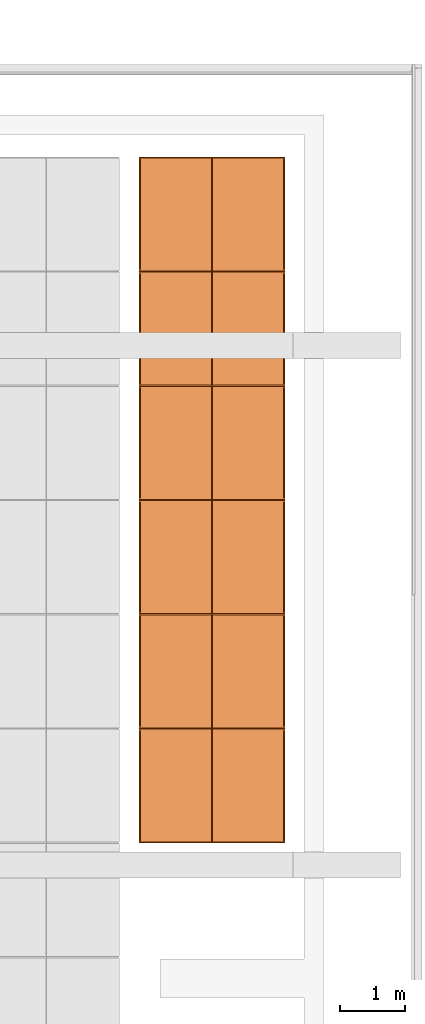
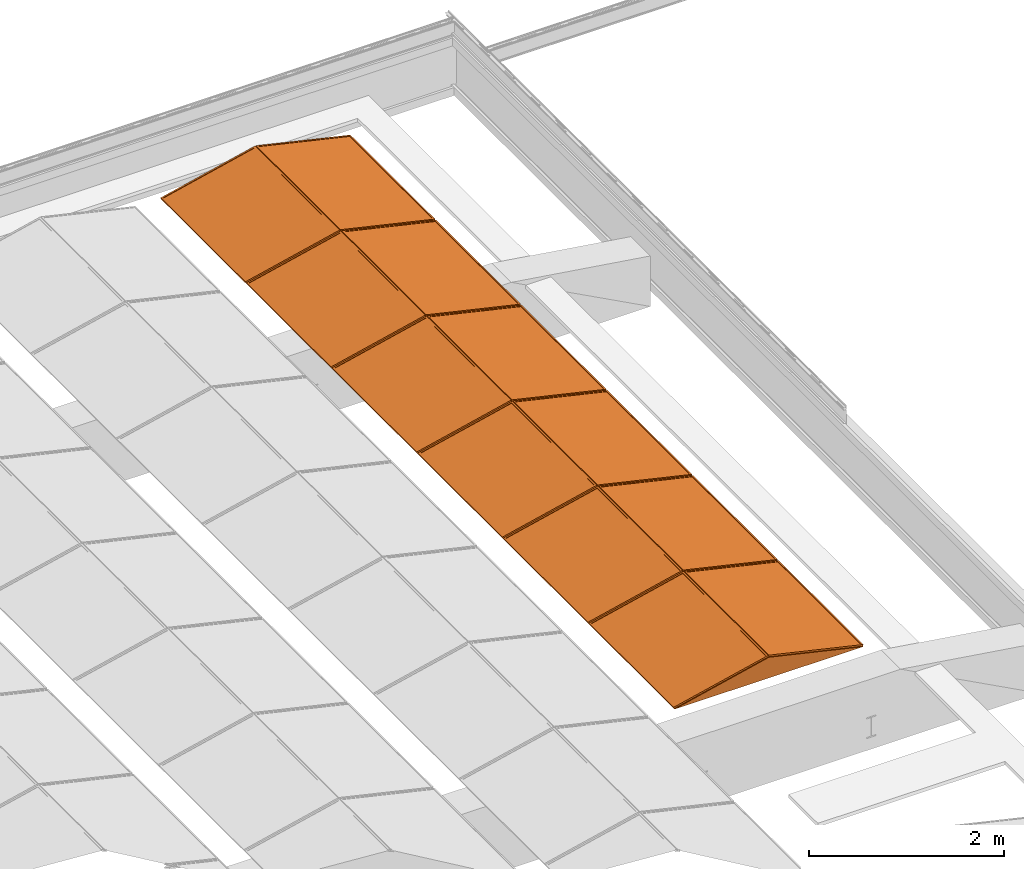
# One storey, part 25 of 25: 1 proxy.
"""IFC2X3 building model written with IfcOpenShell, lengths in millimetres."""

import ifcopenshell
import ifcopenshell.guid

model = None  # the IFC model being written
_history = None  # IfcOwnerHistory: only IFC2X3 demands one
_inside = {}  # id of a spatial element -> (the spatial element, [elements in it])
_under = {}  # id of a project, library or spatial element -> (it, [spatial elements below it])
_declared = {}  # id of a project -> (the project, [libraries it declares])
_typed = {}  # id of a type object -> (the type object, [elements of that type])
_made_of = {}  # id of a material, layer set ... -> (it, [elements and type objects made of it])


def new_model(schema):
    """Start an empty IFC model of exactly this schema.

    Asked for "IFC4X3", IfcOpenShell would pick the latest addendum, in which some entities
    have other attributes; the version numbers below select the first issue.
    IFC2X3 requires an IfcOwnerHistory on every rooted entity: one is made here for all.
    """
    global model, _history
    if schema == "IFC4X3":
        model = ifcopenshell.file(schema_version=(4, 3, 0, 0))
    else:
        model = ifcopenshell.file(schema=schema)
    _inside.clear()
    _under.clear()
    _declared.clear()
    _typed.clear()
    _made_of.clear()
    _history = None
    if model.schema == "IFC2X3":
        org = make("IfcOrganization", Name="unknown")
        user = make(
            "IfcPersonAndOrganization",
            ThePerson=make("IfcPerson", FamilyName="unknown"),
            TheOrganization=org,
        )
        app = make(
            "IfcApplication",
            ApplicationDeveloper=org,
            Version="unknown",
            ApplicationFullName="unknown",
            ApplicationIdentifier="unknown",
        )
        _history = make(
            "IfcOwnerHistory",
            OwningUser=user,
            OwningApplication=app,
            ChangeAction="ADDED",
            CreationDate=0,
        )
    return model


def make(cls, **values):
    """One entity of the class cls with the attributes given. An attribute that is None is left unset."""
    return model.create_entity(
        cls, **{name: value for name, value in values.items() if value is not None}
    )


def entity(cls, *values):
    """Any entity or typed value of the class cls, its attributes in the order of the schema. None: left unset."""
    e = model.create_entity(cls)
    for i, value in enumerate(values):
        if value is not None:
            e[i] = value
    return e


def rooted(cls, **values):
    """An entity with a GlobalId (a new one), such as an element, a storey or a relation."""
    return make(cls, GlobalId=ifcopenshell.guid.new(), OwnerHistory=_history, **values)


def si_unit(unit_type, name, prefix=None):
    """IfcSIUnit, for example si_unit("LENGTHUNIT", "METRE", prefix="MILLI")."""
    return make("IfcSIUnit", UnitType=unit_type, Prefix=prefix, Name=name)


def converted_unit(unit_type, name, factor, base, dimensions=None, offset=None):
    """IfcConversionBasedUnit, such as the inch: factor (a typed value) times the base unit."""
    return make(
        "IfcConversionBasedUnit"
        if offset is None
        else "IfcConversionBasedUnitWithOffset",
        ConversionOffset=offset,
        Dimensions=None
        if dimensions is None
        else entity("IfcDimensionalExponents", *dimensions),
        UnitType=unit_type,
        Name=name,
        ConversionFactor=make(
            "IfcMeasureWithUnit", ValueComponent=factor, UnitComponent=base
        ),
    )


def derived_unit(unit_type, elements):
    """IfcDerivedUnit: a product of units, each with its exponent."""
    return make(
        "IfcDerivedUnit",
        Elements=[
            make("IfcDerivedUnitElement", Unit=unit, Exponent=power)
            for unit, power in elements
        ],
        UnitType=unit_type,
    )


def money_unit(currency):
    """IfcMonetaryUnit."""
    return make("IfcMonetaryUnit", Currency=currency)


def assignment(units):
    """IfcUnitAssignment: the units of a project."""
    return None if units is None else make("IfcUnitAssignment", Units=units)


def point(xyz):
    """IfcCartesianPoint."""
    return None if xyz is None else make("IfcCartesianPoint", Coordinates=xyz)


def direction(xyz):
    """IfcDirection."""
    return None if xyz is None else make("IfcDirection", DirectionRatios=xyz)


def frame(location, z_axis=None, x_axis=None):
    """IfcAxis2Placement3D, a coordinate frame: its origin and axes. An axis left out is left unset."""
    return make(
        "IfcAxis2Placement3D",
        Location=point(location),
        Axis=direction(z_axis),
        RefDirection=direction(x_axis),
    )


def origin_with_axes():
    """The frame at (0, 0, 0) with the z axis (0, 0, 1) and the x axis (1, 0, 0) written out."""
    return frame((0.0, 0.0, 0.0), z_axis=(0.0, 0.0, 1.0), x_axis=(1.0, 0.0, 0.0))


def place(relative_to, where):
    """IfcLocalPlacement: puts the frame where relative to a parent placement (None: the world)."""
    return make(
        "IfcLocalPlacement", PlacementRelTo=relative_to, RelativePlacement=where
    )


def context(
    kind, dimensions, precision=None, world=None, true_north=None, identifier=None
):
    """IfcGeometricRepresentationContext, for example the 3D "Model" context."""
    return make(
        "IfcGeometricRepresentationContext",
        ContextIdentifier=identifier,
        ContextType=kind,
        CoordinateSpaceDimension=dimensions,
        Precision=precision,
        WorldCoordinateSystem=world,
        TrueNorth=true_north,
    )


def subcontext(parent, identifier, kind, view, scale=None):
    """IfcGeometricRepresentationSubContext, for example "Body" below "Model"."""
    return make(
        "IfcGeometricRepresentationSubContext",
        ContextIdentifier=identifier,
        ContextType=kind,
        ParentContext=parent,
        TargetScale=scale,
        TargetView=view,
    )


def project(units=None, contexts=None):
    """IfcProject with its units and contexts."""
    return rooted(
        "IfcProject",
        Name="project",
        RepresentationContexts=contexts,
        UnitsInContext=assignment(units),
    )


def spatial(cls, under=None, at=None, **own):
    """A site, building, storey or space (cls), placed at a placement, below another one or the project."""
    s = rooted(cls, ObjectPlacement=at, **own)
    if under is not None:
        _under.setdefault(under.id(), (under, []))[1].append(s)
    return s


def faces_of(points, faces, orient=None, outer=None):
    """IfcFace entities. A face is a list of loops; a loop is a list of indices into points, from 0.

    orient and outer hold one flag for each loop. By default every Orientation is true, the
    first loop of a face is its IfcFaceOuterBound and the others are IfcFaceBound.
    """
    made = []
    for i, loops in enumerate(faces):
        bounds = []
        for j, loop in enumerate(loops):
            is_outer = j == 0 if outer is None else outer[i][j]
            bounds.append(
                make(
                    "IfcFaceOuterBound" if is_outer else "IfcFaceBound",
                    Bound=make("IfcPolyLoop", Polygon=[points[k] for k in loop]),
                    Orientation=True if orient is None else orient[i][j],
                )
            )
        made.append(make("IfcFace", Bounds=bounds))
    return made


def faceted_brep(points, faces, orient=None, outer=None, voids=None):
    """IfcFacetedBrep: a solid bounded by flat faces; with voids (closed shells), ...WithVoids."""
    shared = [point(p) for p in points]
    hull = make("IfcClosedShell", CfsFaces=faces_of(shared, faces, orient, outer))
    if voids is None:
        return make("IfcFacetedBrep", Outer=hull)
    return make(
        "IfcFacetedBrepWithVoids",
        Outer=hull,
        Voids=[
            make(cls, CfsFaces=faces_of(shared, fs, o, b)) for cls, fs, o, b in voids
        ],
    )


def shape(context_of_items, identifier, shape_type, items):
    """IfcShapeRepresentation: the items that make up one representation, for example the "Body"."""
    return make(
        "IfcShapeRepresentation",
        ContextOfItems=context_of_items,
        RepresentationIdentifier=identifier,
        RepresentationType=shape_type,
        Items=items,
    )


def made_of(thing, what):
    """Note that an element or type object is made of a material, layer set ...; save() writes the relation."""
    if what is not None:
        _made_of.setdefault(what.id(), (what, []))[1].append(thing)
    return thing


def type_object(cls, material=None, **own):
    """A type object (cls), such as IfcWallType, which elements share."""
    return made_of(rooted(cls, **own), material)


def element(
    cls,
    number,
    at=None,
    inside=None,
    cuts=None,
    type_object=None,
    material=None,
    context=None,
    identifier="Body",
    shape_type=None,
    held_by="IfcProductDefinitionShape",
    body=None,
    shapes=None,
    **own,
):
    """One element of the class cls, such as IfcWall. Its Tag is "e" and its number.

    at: its placement. inside: the storey or other place that contains it. cuts: it is an
    opening in that element (IfcRelVoidsElement). A single representation is given by context,
    identifier, shape_type and body (its items); several are given by shapes. held_by: the class
    of the entity that holds the representations. save() writes the other relations.
    """
    e = rooted(cls, Tag="e%d" % number, ObjectPlacement=at, **own)
    if body is not None:
        shapes = [shape(context, identifier, shape_type, body)]
    if shapes is not None:
        e.Representation = make(held_by, Representations=shapes)
    if inside is not None:
        _inside.setdefault(inside.id(), (inside, []))[1].append(e)
    if cuts is not None:
        rooted(
            "IfcRelVoidsElement", RelatingBuildingElement=cuts, RelatedOpeningElement=e
        )
    if type_object is not None:
        _typed.setdefault(type_object.id(), (type_object, []))[1].append(e)
    return made_of(e, material)


def aggregate(whole, parts):
    """IfcRelAggregates: a whole, such as a stair, and the parts it consists of."""
    return rooted("IfcRelAggregates", RelatingObject=whole, RelatedObjects=parts)


def save(model, path):
    """Write the relations noted so far, then the file.

    IfcRelAggregates (storeys below a building ...), IfcRelContainedInSpatialStructure (elements
    in a storey), IfcRelDefinesByType, IfcRelAssociatesMaterial and IfcRelDeclares: one each for
    every whole, place, type object, material and project.
    """
    for whole, parts in _under.values():
        aggregate(whole, parts)
    for where, things in _inside.values():
        rooted(
            "IfcRelContainedInSpatialStructure",
            RelatedElements=things,
            RelatingStructure=where,
        )
    for kind, things in _typed.values():
        rooted("IfcRelDefinesByType", RelatedObjects=things, RelatingType=kind)
    for what, things in _made_of.values():
        rooted("IfcRelAssociatesMaterial", RelatedObjects=things, RelatingMaterial=what)
    for by, libraries in _declared.values():
        rooted("IfcRelDeclares", RelatingContext=by, RelatedDefinitions=libraries)
    model.write(path)


model = new_model("IFC2X3")

# Units and contexts
model_context = context("Model", 3, precision=0.01, world=origin_with_axes(), true_north=direction((0.0, 1.0)))
body_context = subcontext(model_context, "Body", "Model", "MODEL_VIEW")
ifc_project = project(units=[si_unit("LENGTHUNIT", "METRE", prefix="MILLI"), si_unit("AREAUNIT", "SQUARE_METRE"), si_unit("VOLUMEUNIT", "CUBIC_METRE"), converted_unit("PLANEANGLEUNIT", "DEGREE", entity("IfcPlaneAngleMeasure", 0.0174532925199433), si_unit("PLANEANGLEUNIT", "RADIAN"), dimensions=[0, 0, 0, 0, 0, 0, 0]), money_unit("EUR"), converted_unit("TIMEUNIT", "Year", entity("IfcTimeMeasure", 31557600.0), si_unit("TIMEUNIT", "SECOND"), dimensions=[0, 0, 1, 0, 0, 0, 0]), si_unit("MASSUNIT", "GRAM", prefix="KILO"), si_unit("THERMODYNAMICTEMPERATUREUNIT", "DEGREE_CELSIUS"), si_unit("LUMINOUSINTENSITYUNIT", "LUMEN"), si_unit("ENERGYUNIT", "JOULE", prefix="MEGA"), derived_unit("THERMALCONDUCTANCEUNIT", [(si_unit("POWERUNIT", "WATT"), 1), (si_unit("LENGTHUNIT", "METRE"), -1), (si_unit("THERMODYNAMICTEMPERATUREUNIT", "KELVIN"), -1)]), derived_unit("SPECIFICHEATCAPACITYUNIT", [(si_unit("ENERGYUNIT", "JOULE"), 1), (si_unit("MASSUNIT", "GRAM", prefix="KILO"), -1), (si_unit("THERMODYNAMICTEMPERATUREUNIT", "KELVIN"), -1)]), derived_unit("MASSDENSITYUNIT", [(si_unit("MASSUNIT", "GRAM", prefix="KILO"), 1), (si_unit("VOLUMEUNIT", "CUBIC_METRE"), -1)])], contexts=[model_context])

# Site, building, storey
site_placement = place(None, origin_with_axes())
site = spatial("IfcSite", under=ifc_project, at=site_placement, Name="<site naam>", CompositionType="ELEMENT")
building_placement = place(site_placement, origin_with_axes())
building = spatial("IfcBuilding", under=site, at=building_placement, Name="<Naam gebouw>", CompositionType="ELEMENT")
storey_placement = place(building_placement, frame((0.0, 0.0, 9563.0), z_axis=(0.0, 0.0, 1.0), x_axis=(1.0, 0.0, 0.0)))
storey = spatial("IfcBuildingStorey", under=building, at=storey_placement, Name="03 3e tussenverdieping", CompositionType="ELEMENT", Elevation=9563.0)

# Proxy
building_element_proxy_type = type_object("IfcBuildingElementProxyType", Name="Zonnepaneel 27 KM", PredefinedType="USERDEFINED")
proxy_placement = place(storey_placement, frame((2220.525574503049, 18900.92496879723, -773.0000000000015), z_axis=(0.0, 0.0, 1.0), x_axis=(0.0, 1.0, 0.0)))
element("IfcBuildingElementProxy", 1, at=proxy_placement, inside=storey, type_object=building_element_proxy_type, Name="61_Sanitair-x_Lege", ObjectType="PROVISIONFORVOID", context=body_context, shape_type="Brep", body=[
    faceted_brep([(0.0, 0.0, 0.0), (-20.0, 0.0, 0.0), (-20.0, 1120.52557450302, 0.0), (0.0, 1120.52557450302, 0.0), (0.0, 1120.52557450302, 258.6937124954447), (-19.99999999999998, 1120.52557450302, 258.6937124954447)], [[[0, 1, 2, 3]], [[4, 5, 1, 0]], [[1, 5, 2]], [[3, 2, 5, 4]], [[0, 3, 4]]]),
    faceted_brep([(-10.0, 0.0, 0.0), (-10.0, -4.4990210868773, 19.4874012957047), (-1750.0, -4.4990210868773, 19.4874012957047), (-1750.0, 0.0, 0.0), (-10.0, 1120.52557450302, 258.6937124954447), (-10.0, 1116.026553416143, 278.1811137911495), (-1750.0, 1116.026553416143, 278.1811137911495), (-30.0, 14.98838020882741, 23.98642238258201), (-1730.0, 14.98838020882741, 23.98642238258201), (-1730.0, 1096.539152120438, 273.6820927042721), (-30.0, 1096.539152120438, 273.6820927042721), (-1750.0, 1120.52557450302, 258.6937124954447), (-30.0, 19.4874012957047, 4.4990210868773), (-30.0, 1101.038173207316, 254.1946914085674), (-1730.0, 1101.038173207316, 254.1946914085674), (-1730.0, 19.4874012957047, 4.4990210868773)], [[[0, 1, 2, 3]], [[4, 5, 1, 0]], [[1, 5, 6, 2], [7, 8, 9, 10]], [[3, 2, 6, 11]], [[0, 3, 11, 4], [12, 13, 14, 15]], [[11, 6, 5, 4]], [[15, 8, 7, 12]], [[14, 9, 8, 15]], [[13, 10, 9, 14]], [[12, 7, 10, 13]]]),
    faceted_brep([(-1740.0, 7.494190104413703, 11.993211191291), (-1740.0, 1108.532363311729, 266.1879025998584), (-20.0, 1108.532363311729, 266.1879025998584), (-20.0, 7.494190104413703, 11.993211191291), (-1740.0, 6.369434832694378, 16.86506151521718), (-1740.0, 1107.40760804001, 271.0597529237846), (-20.0, 1107.40760804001, 271.0597529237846), (-20.0, 6.369434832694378, 16.86506151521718)], [[[0, 1, 2, 3]], [[0, 4, 5, 1]], [[1, 5, 6, 2]], [[2, 6, 7, 3]], [[3, 7, 4, 0]], [[7, 6, 5, 4]]]),
    faceted_brep([(-1775.0, 0.0, 0.0), (-1775.0, 1120.52557450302, 258.6937124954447), (-1775.0, 1120.52557450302, 0.0), (-1775.0, 1090.52557450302, 0.0), (-1775.0, 1090.52557450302, 220.9785435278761), (-1775.0, 133.3623444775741, 0.0), (-1745.0, 0.0, 0.0), (-1745.0, 1120.52557450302, 258.6937124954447), (-1745.0, 1120.52557450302, 0.0), (-1745.0, 1090.52557450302, 0.0), (-1745.0, 1090.52557450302, 220.9785435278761), (-1745.0, 133.3623444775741, 0.0)], [[[0, 1, 2, 3, 4, 5]], [[6, 7, 1, 0]], [[7, 8, 2, 1]], [[2, 8, 9, 3]], [[4, 3, 9, 10]], [[5, 4, 10, 11]], [[0, 5, 11, 6]], [[11, 10, 9, 8, 7, 6]]]),
    faceted_brep([(-1770.0, 0.0, 0.0), (-1770.0, -4.4990210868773, 19.4874012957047), (-3510.0, -4.4990210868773, 19.4874012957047), (-3510.0, 0.0, 0.0), (-1770.0, 1120.52557450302, 258.6937124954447), (-1770.0, 1116.026553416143, 278.1811137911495), (-3510.0, 1116.026553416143, 278.1811137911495), (-1790.0, 14.98838020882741, 23.98642238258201), (-3490.0, 14.98838020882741, 23.98642238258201), (-3490.0, 1096.539152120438, 273.6820927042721), (-1790.0, 1096.539152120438, 273.6820927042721), (-3510.0, 1120.52557450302, 258.6937124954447), (-1790.0, 19.4874012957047, 4.4990210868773), (-1790.0, 1101.038173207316, 254.1946914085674), (-3490.0, 1101.038173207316, 254.1946914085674), (-3490.0, 19.4874012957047, 4.4990210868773)], [[[0, 1, 2, 3]], [[4, 5, 1, 0]], [[1, 5, 6, 2], [7, 8, 9, 10]], [[3, 2, 6, 11]], [[0, 3, 11, 4], [12, 13, 14, 15]], [[11, 6, 5, 4]], [[15, 8, 7, 12]], [[14, 9, 8, 15]], [[13, 10, 9, 14]], [[12, 7, 10, 13]]]),
    faceted_brep([(-3500.0, 7.494190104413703, 11.993211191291), (-3500.0, 1108.532363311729, 266.1879025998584), (-1780.0, 1108.532363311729, 266.1879025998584), (-1780.0, 7.494190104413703, 11.993211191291), (-3500.0, 6.369434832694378, 16.86506151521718), (-3500.0, 1107.40760804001, 271.0597529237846), (-1780.0, 1107.40760804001, 271.0597529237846), (-1780.0, 6.369434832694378, 16.86506151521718)], [[[0, 1, 2, 3]], [[0, 4, 5, 1]], [[1, 5, 6, 2]], [[2, 6, 7, 3]], [[3, 7, 4, 0]], [[7, 6, 5, 4]]]),
    faceted_brep([(-3535.0, 0.0, 0.0), (-3535.0, 1120.52557450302, 258.6937124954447), (-3535.0, 1120.52557450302, 0.0), (-3535.0, 1090.52557450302, 0.0), (-3535.0, 1090.52557450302, 220.9785435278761), (-3535.0, 133.3623444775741, 0.0), (-3505.0, 0.0, 0.0), (-3505.0, 1120.52557450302, 258.6937124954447), (-3505.0, 1120.52557450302, 0.0), (-3505.0, 1090.52557450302, 0.0), (-3505.0, 1090.52557450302, 220.9785435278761), (-3505.0, 133.3623444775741, 0.0)], [[[0, 1, 2, 3, 4, 5]], [[6, 7, 1, 0]], [[7, 8, 2, 1]], [[2, 8, 9, 3]], [[4, 3, 9, 10]], [[5, 4, 10, 11]], [[0, 5, 11, 6]], [[11, 10, 9, 8, 7, 6]]]),
    faceted_brep([(-3530.0, 0.0, 0.0), (-3530.0, -4.4990210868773, 19.4874012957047), (-5270.0, -4.4990210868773, 19.4874012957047), (-5270.0, 0.0, 0.0), (-3530.0, 1120.52557450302, 258.6937124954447), (-3530.0, 1116.026553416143, 278.1811137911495), (-5270.0, 1116.026553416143, 278.1811137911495), (-3550.0, 14.98838020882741, 23.98642238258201), (-5250.0, 14.98838020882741, 23.98642238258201), (-5250.0, 1096.539152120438, 273.6820927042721), (-3550.0, 1096.539152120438, 273.6820927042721), (-5270.0, 1120.52557450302, 258.6937124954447), (-3550.0, 19.4874012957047, 4.4990210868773), (-3550.0, 1101.038173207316, 254.1946914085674), (-5250.0, 1101.038173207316, 254.1946914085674), (-5250.0, 19.4874012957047, 4.4990210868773)], [[[0, 1, 2, 3]], [[4, 5, 1, 0]], [[1, 5, 6, 2], [7, 8, 9, 10]], [[3, 2, 6, 11]], [[0, 3, 11, 4], [12, 13, 14, 15]], [[11, 6, 5, 4]], [[15, 8, 7, 12]], [[14, 9, 8, 15]], [[13, 10, 9, 14]], [[12, 7, 10, 13]]]),
    faceted_brep([(-5260.0, 7.494190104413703, 11.993211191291), (-5260.0, 1108.532363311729, 266.1879025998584), (-3540.0, 1108.532363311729, 266.1879025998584), (-3540.0, 7.494190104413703, 11.993211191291), (-5260.0, 6.369434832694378, 16.86506151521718), (-5260.0, 1107.40760804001, 271.0597529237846), (-3540.0, 1107.40760804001, 271.0597529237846), (-3540.0, 6.369434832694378, 16.86506151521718)], [[[0, 1, 2, 3]], [[0, 4, 5, 1]], [[1, 5, 6, 2]], [[2, 6, 7, 3]], [[3, 7, 4, 0]], [[7, 6, 5, 4]]]),
    faceted_brep([(-5295.0, 0.0, 0.0), (-5295.0, 1120.52557450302, 258.6937124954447), (-5295.0, 1120.52557450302, 0.0), (-5295.0, 1090.52557450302, 0.0), (-5295.0, 1090.52557450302, 220.9785435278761), (-5295.0, 133.3623444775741, 0.0), (-5265.000000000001, 0.0, 0.0), (-5265.000000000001, 1120.52557450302, 258.6937124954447), (-5265.000000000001, 1120.52557450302, 0.0), (-5265.000000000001, 1090.52557450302, 0.0), (-5265.000000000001, 1090.52557450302, 220.9785435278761), (-5265.000000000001, 133.3623444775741, 0.0)], [[[0, 1, 2, 3, 4, 5]], [[6, 7, 1, 0]], [[7, 8, 2, 1]], [[2, 8, 9, 3]], [[4, 3, 9, 10]], [[5, 4, 10, 11]], [[0, 5, 11, 6]], [[11, 10, 9, 8, 7, 6]]]),
    faceted_brep([(-5290.0, 0.0, 0.0), (-5290.0, -4.4990210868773, 19.4874012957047), (-7030.0, -4.4990210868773, 19.4874012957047), (-7030.0, 0.0, 0.0), (-5290.0, 1120.52557450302, 258.6937124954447), (-5290.0, 1116.026553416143, 278.1811137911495), (-7030.0, 1116.026553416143, 278.1811137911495), (-5310.0, 14.98838020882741, 23.98642238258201), (-7010.0, 14.98838020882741, 23.98642238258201), (-7010.0, 1096.539152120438, 273.6820927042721), (-5310.0, 1096.539152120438, 273.6820927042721), (-7030.0, 1120.52557450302, 258.6937124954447), (-5310.0, 19.4874012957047, 4.4990210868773), (-5310.0, 1101.038173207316, 254.1946914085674), (-7010.0, 1101.038173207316, 254.1946914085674), (-7010.0, 19.4874012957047, 4.4990210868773)], [[[0, 1, 2, 3]], [[4, 5, 1, 0]], [[1, 5, 6, 2], [7, 8, 9, 10]], [[3, 2, 6, 11]], [[0, 3, 11, 4], [12, 13, 14, 15]], [[11, 6, 5, 4]], [[15, 8, 7, 12]], [[14, 9, 8, 15]], [[13, 10, 9, 14]], [[12, 7, 10, 13]]]),
    faceted_brep([(-7020.0, 7.494190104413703, 11.993211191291), (-7020.0, 1108.532363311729, 266.1879025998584), (-5300.0, 1108.532363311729, 266.1879025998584), (-5300.0, 7.494190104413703, 11.993211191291), (-7020.0, 6.369434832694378, 16.86506151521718), (-7020.0, 1107.40760804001, 271.0597529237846), (-5300.0, 1107.40760804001, 271.0597529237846), (-5300.0, 6.369434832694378, 16.86506151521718)], [[[0, 1, 2, 3]], [[0, 4, 5, 1]], [[1, 5, 6, 2]], [[2, 6, 7, 3]], [[3, 7, 4, 0]], [[7, 6, 5, 4]]]),
    faceted_brep([(-7055.0, 0.0, 0.0), (-7055.0, 1120.52557450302, 258.6937124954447), (-7055.0, 1120.52557450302, 0.0), (-7055.0, 1090.52557450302, 0.0), (-7055.0, 1090.52557450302, 220.9785435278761), (-7055.0, 133.3623444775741, 0.0), (-7025.0, 0.0, 0.0), (-7025.0, 1120.52557450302, 258.6937124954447), (-7025.0, 1120.52557450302, 0.0), (-7025.0, 1090.52557450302, 0.0), (-7025.0, 1090.52557450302, 220.9785435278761), (-7025.0, 133.3623444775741, 0.0)], [[[0, 1, 2, 3, 4, 5]], [[6, 7, 1, 0]], [[7, 8, 2, 1]], [[2, 8, 9, 3]], [[4, 3, 9, 10]], [[5, 4, 10, 11]], [[0, 5, 11, 6]], [[11, 10, 9, 8, 7, 6]]]),
    faceted_brep([(-7050.0, 0.0, 0.0), (-7050.0, -4.4990210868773, 19.4874012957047), (-8790.0, -4.4990210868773, 19.4874012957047), (-8790.0, 0.0, 0.0), (-7050.0, 1120.52557450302, 258.6937124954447), (-7050.0, 1116.026553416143, 278.1811137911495), (-8790.0, 1116.026553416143, 278.1811137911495), (-7069.999999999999, 14.98838020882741, 23.98642238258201), (-8770.0, 14.98838020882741, 23.98642238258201), (-8770.0, 1096.539152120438, 273.6820927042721), (-7069.999999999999, 1096.539152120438, 273.6820927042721), (-8790.0, 1120.52557450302, 258.6937124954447), (-7069.999999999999, 19.4874012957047, 4.4990210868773), (-7069.999999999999, 1101.038173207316, 254.1946914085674), (-8770.0, 1101.038173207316, 254.1946914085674), (-8770.0, 19.4874012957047, 4.4990210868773)], [[[0, 1, 2, 3]], [[4, 5, 1, 0]], [[1, 5, 6, 2], [7, 8, 9, 10]], [[3, 2, 6, 11]], [[0, 3, 11, 4], [12, 13, 14, 15]], [[11, 6, 5, 4]], [[15, 8, 7, 12]], [[14, 9, 8, 15]], [[13, 10, 9, 14]], [[12, 7, 10, 13]]]),
    faceted_brep([(-8780.0, 7.494190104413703, 11.993211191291), (-8780.0, 1108.532363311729, 266.1879025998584), (-7060.0, 1108.532363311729, 266.1879025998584), (-7060.0, 7.494190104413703, 11.993211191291), (-8780.0, 6.369434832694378, 16.86506151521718), (-8780.0, 1107.40760804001, 271.0597529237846), (-7060.0, 1107.40760804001, 271.0597529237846), (-7060.0, 6.369434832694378, 16.86506151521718)], [[[0, 1, 2, 3]], [[0, 4, 5, 1]], [[1, 5, 6, 2]], [[2, 6, 7, 3]], [[3, 7, 4, 0]], [[7, 6, 5, 4]]]),
    faceted_brep([(-8815.000000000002, 0.0, 0.0), (-8815.000000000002, 1120.52557450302, 258.6937124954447), (-8815.000000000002, 1120.52557450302, 0.0), (-8815.000000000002, 1090.52557450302, 0.0), (-8815.000000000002, 1090.52557450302, 220.9785435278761), (-8815.000000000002, 133.3623444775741, 0.0), (-8785.0, 0.0, 0.0), (-8785.0, 1120.52557450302, 258.6937124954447), (-8785.0, 1120.52557450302, 0.0), (-8785.0, 1090.52557450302, 0.0), (-8785.0, 1090.52557450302, 220.9785435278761), (-8785.0, 133.3623444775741, 0.0)], [[[0, 1, 2, 3, 4, 5]], [[6, 7, 1, 0]], [[7, 8, 2, 1]], [[2, 8, 9, 3]], [[4, 3, 9, 10]], [[5, 4, 10, 11]], [[0, 5, 11, 6]], [[11, 10, 9, 8, 7, 6]]]),
    faceted_brep([(-8810.0, 0.0, 0.0), (-8810.0, -4.4990210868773, 19.4874012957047), (-10550.0, -4.4990210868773, 19.4874012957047), (-10550.0, 0.0, 0.0), (-8810.0, 1120.52557450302, 258.6937124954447), (-8810.0, 1116.026553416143, 278.1811137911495), (-10550.0, 1116.026553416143, 278.1811137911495), (-8830.0, 14.98838020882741, 23.98642238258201), (-10530.0, 14.98838020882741, 23.98642238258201), (-10530.0, 1096.539152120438, 273.6820927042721), (-8830.0, 1096.539152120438, 273.6820927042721), (-10550.0, 1120.52557450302, 258.6937124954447), (-8830.0, 19.4874012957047, 4.4990210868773), (-8830.0, 1101.038173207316, 254.1946914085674), (-10530.0, 1101.038173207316, 254.1946914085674), (-10530.0, 19.4874012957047, 4.4990210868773)], [[[0, 1, 2, 3]], [[4, 5, 1, 0]], [[1, 5, 6, 2], [7, 8, 9, 10]], [[3, 2, 6, 11]], [[0, 3, 11, 4], [12, 13, 14, 15]], [[11, 6, 5, 4]], [[15, 8, 7, 12]], [[14, 9, 8, 15]], [[13, 10, 9, 14]], [[12, 7, 10, 13]]]),
    faceted_brep([(-10540.0, 7.494190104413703, 11.993211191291), (-10540.0, 1108.532363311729, 266.1879025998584), (-8820.0, 1108.532363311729, 266.1879025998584), (-8820.0, 7.494190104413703, 11.993211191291), (-10540.0, 6.369434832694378, 16.86506151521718), (-10540.0, 1107.40760804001, 271.0597529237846), (-8820.0, 1107.40760804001, 271.0597529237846), (-8820.0, 6.369434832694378, 16.86506151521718)], [[[0, 1, 2, 3]], [[0, 4, 5, 1]], [[1, 5, 6, 2]], [[2, 6, 7, 3]], [[3, 7, 4, 0]], [[7, 6, 5, 4]]]),
    faceted_brep([(-10540.0, 0.0, 0.0), (-10560.0, 0.0, 0.0), (-10560.0, 1120.52557450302, 0.0), (-10540.0, 1120.52557450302, 0.0), (-10540.0, 1120.52557450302, 258.6937124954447), (-10560.0, 1120.52557450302, 258.6937124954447)], [[[0, 1, 2, 3]], [[4, 5, 1, 0]], [[1, 5, 2]], [[3, 2, 5, 4]], [[0, 3, 4]]]),
    faceted_brep([(0.0, 2241.051149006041, 0.0), (0.0, 1120.52557450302, 0.0), (-20.0, 1120.52557450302, 0.0), (-20.0, 2241.051149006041, 0.0), (0.0, 1120.52557450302, 258.6937124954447), (-19.99999999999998, 1120.52557450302, 258.6937124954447)], [[[0, 1, 2, 3]], [[0, 4, 1]], [[1, 4, 5, 2]], [[3, 2, 5]], [[4, 0, 3, 5]]]),
    faceted_brep([(-10.0, 2241.051149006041, 0.0), (-1750.0, 2241.051149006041, 0.0), (-1750.0, 2245.550170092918, 19.4874012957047), (-10.0, 2245.550170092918, 19.4874012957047), (-10.0, 1120.52557450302, 258.6937124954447), (-1750.0, 1120.52557450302, 258.6937124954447), (-30.0, 2221.563747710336, 4.4990210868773), (-1730.0, 2221.563747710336, 4.4990210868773), (-1730.0, 1140.012975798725, 254.1946914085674), (-30.0, 1140.012975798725, 254.1946914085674), (-1750.0, 1125.024595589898, 278.1811137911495), (-10.0, 1125.024595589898, 278.1811137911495), (-30.0, 2226.062768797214, 23.98642238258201), (-30.0, 1144.511996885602, 273.6820927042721), (-1730.0, 1144.511996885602, 273.6820927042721), (-1730.0, 2226.062768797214, 23.98642238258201)], [[[0, 1, 2, 3]], [[0, 4, 5, 1], [6, 7, 8, 9]], [[1, 5, 10, 2]], [[3, 2, 10, 11], [12, 13, 14, 15]], [[4, 0, 3, 11]], [[5, 4, 11, 10]], [[7, 6, 12, 15]], [[8, 7, 15, 14]], [[9, 8, 14, 13]], [[6, 9, 13, 12]]]),
    faceted_brep([(-1740.0, 2233.556958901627, 11.993211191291), (-20.0, 2233.556958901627, 11.993211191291), (-20.0, 1132.518785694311, 266.1879025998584), (-1740.0, 1132.518785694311, 266.1879025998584), (-1740.0, 2234.681714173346, 16.86506151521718), (-20.0, 2234.681714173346, 16.86506151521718), (-20.0, 1133.643540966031, 271.0597529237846), (-1740.0, 1133.643540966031, 271.0597529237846)], [[[0, 1, 2, 3]], [[1, 0, 4, 5]], [[2, 1, 5, 6]], [[3, 2, 6, 7]], [[0, 3, 7, 4]], [[5, 4, 7, 6]]]),
    faceted_brep([(-1775.0, 2241.051149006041, 0.0), (-1775.0, 2107.688804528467, 0.0), (-1775.0, 1150.525574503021, 220.9785435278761), (-1775.0, 1150.525574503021, 0.0), (-1775.0, 1120.52557450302, 0.0), (-1775.0, 1120.52557450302, 258.6937124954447), (-1745.0, 2241.051149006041, 0.0), (-1745.0, 2107.688804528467, 0.0), (-1745.0, 1150.525574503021, 220.9785435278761), (-1745.0, 1150.525574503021, 0.0), (-1745.0, 1120.52557450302, 0.0), (-1745.0, 1120.52557450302, 258.6937124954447)], [[[0, 1, 2, 3, 4, 5]], [[0, 6, 7, 1]], [[1, 7, 8, 2]], [[2, 8, 9, 3]], [[4, 3, 9, 10]], [[11, 5, 4, 10]], [[6, 0, 5, 11]], [[7, 6, 11, 10, 9, 8]]]),
    faceted_brep([(-1770.0, 2241.051149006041, 0.0), (-3510.0, 2241.051149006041, 0.0), (-3510.0, 2245.550170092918, 19.4874012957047), (-1770.0, 2245.550170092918, 19.4874012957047), (-1770.0, 1120.52557450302, 258.6937124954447), (-3510.0, 1120.52557450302, 258.6937124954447), (-1790.0, 2221.563747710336, 4.4990210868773), (-3490.0, 2221.563747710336, 4.4990210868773), (-3490.0, 1140.012975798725, 254.1946914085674), (-1790.0, 1140.012975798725, 254.1946914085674), (-3510.0, 1125.024595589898, 278.1811137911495), (-1770.0, 1125.024595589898, 278.1811137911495), (-1790.0, 2226.062768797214, 23.98642238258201), (-1790.0, 1144.511996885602, 273.6820927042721), (-3490.0, 1144.511996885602, 273.6820927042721), (-3490.0, 2226.062768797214, 23.98642238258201)], [[[0, 1, 2, 3]], [[0, 4, 5, 1], [6, 7, 8, 9]], [[1, 5, 10, 2]], [[3, 2, 10, 11], [12, 13, 14, 15]], [[4, 0, 3, 11]], [[5, 4, 11, 10]], [[7, 6, 12, 15]], [[8, 7, 15, 14]], [[9, 8, 14, 13]], [[6, 9, 13, 12]]]),
    faceted_brep([(-3500.0, 2233.556958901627, 11.993211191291), (-1780.0, 2233.556958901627, 11.993211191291), (-1780.0, 1132.518785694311, 266.1879025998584), (-3500.0, 1132.518785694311, 266.1879025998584), (-3500.0, 2234.681714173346, 16.86506151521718), (-1780.0, 2234.681714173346, 16.86506151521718), (-1780.0, 1133.643540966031, 271.0597529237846), (-3500.0, 1133.643540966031, 271.0597529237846)], [[[0, 1, 2, 3]], [[1, 0, 4, 5]], [[2, 1, 5, 6]], [[3, 2, 6, 7]], [[0, 3, 7, 4]], [[5, 4, 7, 6]]]),
    faceted_brep([(-3535.0, 2241.051149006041, 0.0), (-3535.0, 2107.688804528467, 0.0), (-3535.0, 1150.525574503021, 220.9785435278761), (-3535.0, 1150.525574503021, 0.0), (-3535.0, 1120.52557450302, 0.0), (-3535.0, 1120.52557450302, 258.6937124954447), (-3505.0, 2241.051149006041, 0.0), (-3505.0, 2107.688804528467, 0.0), (-3505.0, 1150.525574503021, 220.9785435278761), (-3505.0, 1150.525574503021, 0.0), (-3505.0, 1120.52557450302, 0.0), (-3505.0, 1120.52557450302, 258.6937124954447)], [[[0, 1, 2, 3, 4, 5]], [[0, 6, 7, 1]], [[1, 7, 8, 2]], [[2, 8, 9, 3]], [[4, 3, 9, 10]], [[11, 5, 4, 10]], [[6, 0, 5, 11]], [[7, 6, 11, 10, 9, 8]]]),
    faceted_brep([(-3530.0, 2241.051149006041, 0.0), (-5270.0, 2241.051149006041, 0.0), (-5270.0, 2245.550170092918, 19.4874012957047), (-3530.0, 2245.550170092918, 19.4874012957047), (-3530.0, 1120.52557450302, 258.6937124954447), (-5270.0, 1120.52557450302, 258.6937124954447), (-3550.0, 2221.563747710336, 4.4990210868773), (-5250.0, 2221.563747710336, 4.4990210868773), (-5250.0, 1140.012975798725, 254.1946914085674), (-3550.0, 1140.012975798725, 254.1946914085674), (-5270.0, 1125.024595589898, 278.1811137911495), (-3530.0, 1125.024595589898, 278.1811137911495), (-3550.0, 2226.062768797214, 23.98642238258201), (-3550.0, 1144.511996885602, 273.6820927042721), (-5250.0, 1144.511996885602, 273.6820927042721), (-5250.0, 2226.062768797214, 23.98642238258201)], [[[0, 1, 2, 3]], [[0, 4, 5, 1], [6, 7, 8, 9]], [[1, 5, 10, 2]], [[3, 2, 10, 11], [12, 13, 14, 15]], [[4, 0, 3, 11]], [[5, 4, 11, 10]], [[7, 6, 12, 15]], [[8, 7, 15, 14]], [[9, 8, 14, 13]], [[6, 9, 13, 12]]]),
    faceted_brep([(-5260.0, 2233.556958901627, 11.993211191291), (-3540.0, 2233.556958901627, 11.993211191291), (-3540.0, 1132.518785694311, 266.1879025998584), (-5260.0, 1132.518785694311, 266.1879025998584), (-5260.0, 2234.681714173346, 16.86506151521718), (-3540.0, 2234.681714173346, 16.86506151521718), (-3540.0, 1133.643540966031, 271.0597529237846), (-5260.0, 1133.643540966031, 271.0597529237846)], [[[0, 1, 2, 3]], [[1, 0, 4, 5]], [[2, 1, 5, 6]], [[3, 2, 6, 7]], [[0, 3, 7, 4]], [[5, 4, 7, 6]]]),
    faceted_brep([(-5295.0, 2241.051149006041, 0.0), (-5295.0, 2107.688804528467, 0.0), (-5295.0, 1150.525574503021, 220.9785435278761), (-5295.0, 1150.525574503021, 0.0), (-5295.0, 1120.52557450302, 0.0), (-5295.0, 1120.52557450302, 258.6937124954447), (-5265.000000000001, 2241.051149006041, 0.0), (-5265.000000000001, 2107.688804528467, 0.0), (-5265.000000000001, 1150.525574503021, 220.9785435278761), (-5265.000000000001, 1150.525574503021, 0.0), (-5265.000000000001, 1120.52557450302, 0.0), (-5265.000000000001, 1120.52557450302, 258.6937124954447)], [[[0, 1, 2, 3, 4, 5]], [[0, 6, 7, 1]], [[1, 7, 8, 2]], [[2, 8, 9, 3]], [[4, 3, 9, 10]], [[11, 5, 4, 10]], [[6, 0, 5, 11]], [[7, 6, 11, 10, 9, 8]]]),
    faceted_brep([(-5290.0, 2241.051149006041, 0.0), (-7030.0, 2241.051149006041, 0.0), (-7030.0, 2245.550170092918, 19.4874012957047), (-5290.0, 2245.550170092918, 19.4874012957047), (-5290.0, 1120.52557450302, 258.6937124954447), (-7030.0, 1120.52557450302, 258.6937124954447), (-5310.0, 2221.563747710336, 4.4990210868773), (-7010.0, 2221.563747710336, 4.4990210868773), (-7010.0, 1140.012975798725, 254.1946914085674), (-5310.0, 1140.012975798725, 254.1946914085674), (-7030.0, 1125.024595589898, 278.1811137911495), (-5290.0, 1125.024595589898, 278.1811137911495), (-5310.0, 2226.062768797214, 23.98642238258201), (-5310.0, 1144.511996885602, 273.6820927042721), (-7010.0, 1144.511996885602, 273.6820927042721), (-7010.0, 2226.062768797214, 23.98642238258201)], [[[0, 1, 2, 3]], [[0, 4, 5, 1], [6, 7, 8, 9]], [[1, 5, 10, 2]], [[3, 2, 10, 11], [12, 13, 14, 15]], [[4, 0, 3, 11]], [[5, 4, 11, 10]], [[7, 6, 12, 15]], [[8, 7, 15, 14]], [[9, 8, 14, 13]], [[6, 9, 13, 12]]]),
    faceted_brep([(-7020.0, 2233.556958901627, 11.993211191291), (-5300.0, 2233.556958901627, 11.993211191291), (-5300.0, 1132.518785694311, 266.1879025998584), (-7020.0, 1132.518785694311, 266.1879025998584), (-7020.0, 2234.681714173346, 16.86506151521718), (-5300.0, 2234.681714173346, 16.86506151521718), (-5300.0, 1133.643540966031, 271.0597529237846), (-7020.0, 1133.643540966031, 271.0597529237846)], [[[0, 1, 2, 3]], [[1, 0, 4, 5]], [[2, 1, 5, 6]], [[3, 2, 6, 7]], [[0, 3, 7, 4]], [[5, 4, 7, 6]]]),
    faceted_brep([(-7055.0, 2241.051149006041, 0.0), (-7055.0, 2107.688804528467, 0.0), (-7055.0, 1150.525574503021, 220.9785435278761), (-7055.0, 1150.525574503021, 0.0), (-7055.0, 1120.52557450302, 0.0), (-7055.0, 1120.52557450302, 258.6937124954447), (-7025.0, 2241.051149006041, 0.0), (-7025.0, 2107.688804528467, 0.0), (-7025.0, 1150.525574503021, 220.9785435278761), (-7025.0, 1150.525574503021, 0.0), (-7025.0, 1120.52557450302, 0.0), (-7025.0, 1120.52557450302, 258.6937124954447)], [[[0, 1, 2, 3, 4, 5]], [[0, 6, 7, 1]], [[1, 7, 8, 2]], [[2, 8, 9, 3]], [[4, 3, 9, 10]], [[11, 5, 4, 10]], [[6, 0, 5, 11]], [[7, 6, 11, 10, 9, 8]]]),
    faceted_brep([(-7050.0, 2241.051149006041, 0.0), (-8790.0, 2241.051149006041, 0.0), (-8790.0, 2245.550170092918, 19.4874012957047), (-7050.0, 2245.550170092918, 19.4874012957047), (-7050.0, 1120.52557450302, 258.6937124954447), (-8790.0, 1120.52557450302, 258.6937124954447), (-7069.999999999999, 2221.563747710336, 4.4990210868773), (-8770.0, 2221.563747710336, 4.4990210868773), (-8770.0, 1140.012975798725, 254.1946914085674), (-7069.999999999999, 1140.012975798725, 254.1946914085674), (-8790.0, 1125.024595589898, 278.1811137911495), (-7050.0, 1125.024595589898, 278.1811137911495), (-7069.999999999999, 2226.062768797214, 23.98642238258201), (-7069.999999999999, 1144.511996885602, 273.6820927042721), (-8770.0, 1144.511996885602, 273.6820927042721), (-8770.0, 2226.062768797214, 23.98642238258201)], [[[0, 1, 2, 3]], [[0, 4, 5, 1], [6, 7, 8, 9]], [[1, 5, 10, 2]], [[3, 2, 10, 11], [12, 13, 14, 15]], [[4, 0, 3, 11]], [[5, 4, 11, 10]], [[7, 6, 12, 15]], [[8, 7, 15, 14]], [[9, 8, 14, 13]], [[6, 9, 13, 12]]]),
    faceted_brep([(-8780.0, 2233.556958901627, 11.993211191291), (-7060.0, 2233.556958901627, 11.993211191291), (-7060.0, 1132.518785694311, 266.1879025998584), (-8780.0, 1132.518785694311, 266.1879025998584), (-8780.0, 2234.681714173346, 16.86506151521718), (-7060.0, 2234.681714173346, 16.86506151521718), (-7060.0, 1133.643540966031, 271.0597529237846), (-8780.0, 1133.643540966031, 271.0597529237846)], [[[0, 1, 2, 3]], [[1, 0, 4, 5]], [[2, 1, 5, 6]], [[3, 2, 6, 7]], [[0, 3, 7, 4]], [[5, 4, 7, 6]]]),
    faceted_brep([(-8815.000000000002, 2241.051149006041, 0.0), (-8815.000000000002, 2107.688804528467, 0.0), (-8815.000000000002, 1150.525574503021, 220.9785435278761), (-8815.000000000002, 1150.525574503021, 0.0), (-8815.000000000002, 1120.52557450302, 0.0), (-8815.000000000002, 1120.52557450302, 258.6937124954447), (-8785.0, 2241.051149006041, 0.0), (-8785.0, 2107.688804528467, 0.0), (-8785.0, 1150.525574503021, 220.9785435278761), (-8785.0, 1150.525574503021, 0.0), (-8785.0, 1120.52557450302, 0.0), (-8785.0, 1120.52557450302, 258.6937124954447)], [[[0, 1, 2, 3, 4, 5]], [[0, 6, 7, 1]], [[1, 7, 8, 2]], [[2, 8, 9, 3]], [[4, 3, 9, 10]], [[11, 5, 4, 10]], [[6, 0, 5, 11]], [[7, 6, 11, 10, 9, 8]]]),
    faceted_brep([(-8810.0, 2241.051149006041, 0.0), (-10550.0, 2241.051149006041, 0.0), (-10550.0, 2245.550170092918, 19.4874012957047), (-8810.0, 2245.550170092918, 19.4874012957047), (-8810.0, 1120.52557450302, 258.6937124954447), (-10550.0, 1120.52557450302, 258.6937124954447), (-8830.0, 2221.563747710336, 4.4990210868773), (-10530.0, 2221.563747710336, 4.4990210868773), (-10530.0, 1140.012975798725, 254.1946914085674), (-8830.0, 1140.012975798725, 254.1946914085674), (-10550.0, 1125.024595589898, 278.1811137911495), (-8810.0, 1125.024595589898, 278.1811137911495), (-8830.0, 2226.062768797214, 23.98642238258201), (-8830.0, 1144.511996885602, 273.6820927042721), (-10530.0, 1144.511996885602, 273.6820927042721), (-10530.0, 2226.062768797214, 23.98642238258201)], [[[0, 1, 2, 3]], [[0, 4, 5, 1], [6, 7, 8, 9]], [[1, 5, 10, 2]], [[3, 2, 10, 11], [12, 13, 14, 15]], [[4, 0, 3, 11]], [[5, 4, 11, 10]], [[7, 6, 12, 15]], [[8, 7, 15, 14]], [[9, 8, 14, 13]], [[6, 9, 13, 12]]]),
    faceted_brep([(-10540.0, 2233.556958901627, 11.993211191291), (-8820.0, 2233.556958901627, 11.993211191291), (-8820.0, 1132.518785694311, 266.1879025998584), (-10540.0, 1132.518785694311, 266.1879025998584), (-10540.0, 2234.681714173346, 16.86506151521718), (-8820.0, 2234.681714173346, 16.86506151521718), (-8820.0, 1133.643540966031, 271.0597529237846), (-10540.0, 1133.643540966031, 271.0597529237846)], [[[0, 1, 2, 3]], [[1, 0, 4, 5]], [[2, 1, 5, 6]], [[3, 2, 6, 7]], [[0, 3, 7, 4]], [[5, 4, 7, 6]]]),
    faceted_brep([(-10540.0, 2241.051149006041, 0.0), (-10540.0, 1120.52557450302, 0.0), (-10560.0, 1120.52557450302, 0.0), (-10560.0, 2241.051149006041, 0.0), (-10540.0, 1120.52557450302, 258.6937124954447), (-10560.0, 1120.52557450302, 258.6937124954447)], [[[0, 1, 2, 3]], [[0, 4, 1]], [[1, 4, 5, 2]], [[3, 2, 5]], [[4, 0, 3, 5]]]),
])

save(model, "model.ifc")
